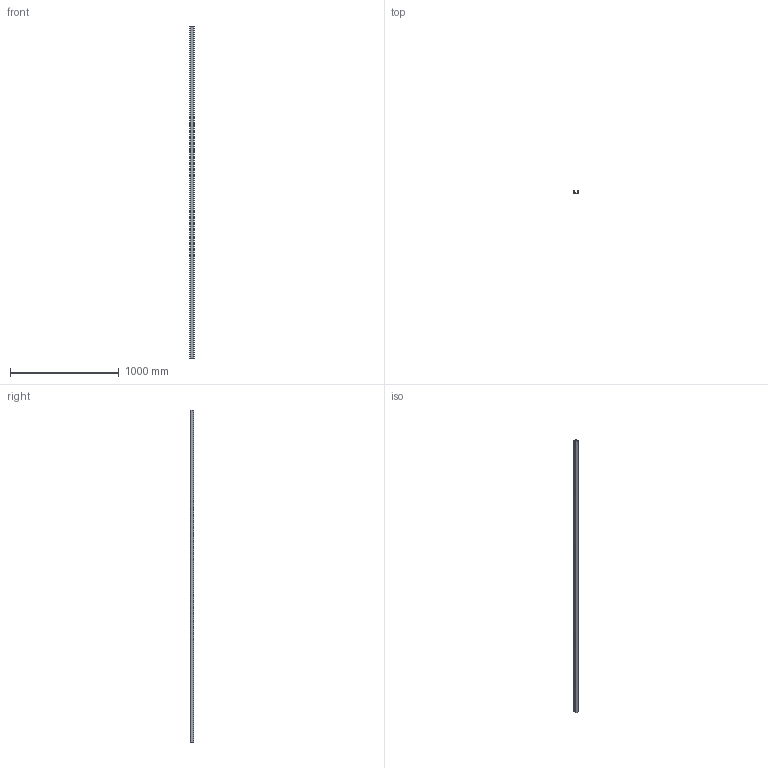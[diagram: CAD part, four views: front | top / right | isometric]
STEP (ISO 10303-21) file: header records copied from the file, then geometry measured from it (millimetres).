
FILE_DESCRIPTION(('TurboCAD Mac Pro'),'Build 980');
FILE_NAME('F20P-1000.stp',' ',(''),(''),'ACIS Interop','IMSI','TurboCAD Mac Pro BY IMSI, INCORPORATED');
FILE_SCHEMA(('automotive_design'));
Length unit declared in the file: inch
Products named in the file (1): 1
Bounding box: 38.1 x 28.58 x 3048 mm (x, y, z)
Volume: 1274527.7 mm3; surface area: 598984.8 mm2
Topology: 1 solids, 1 shells, 31 faces, 87 edges, 58 vertices
Faces by surface type: bspline 17, plane 14
Entity records: 1373 total; most frequent: CARTESIAN_POINT 406, ORIENTED_EDGE 174, DIRECTION 91, EDGE_CURVE 87, VERTEX_POINT 58, LINE 53, VECTOR 53, STYLED_ITEM 32
